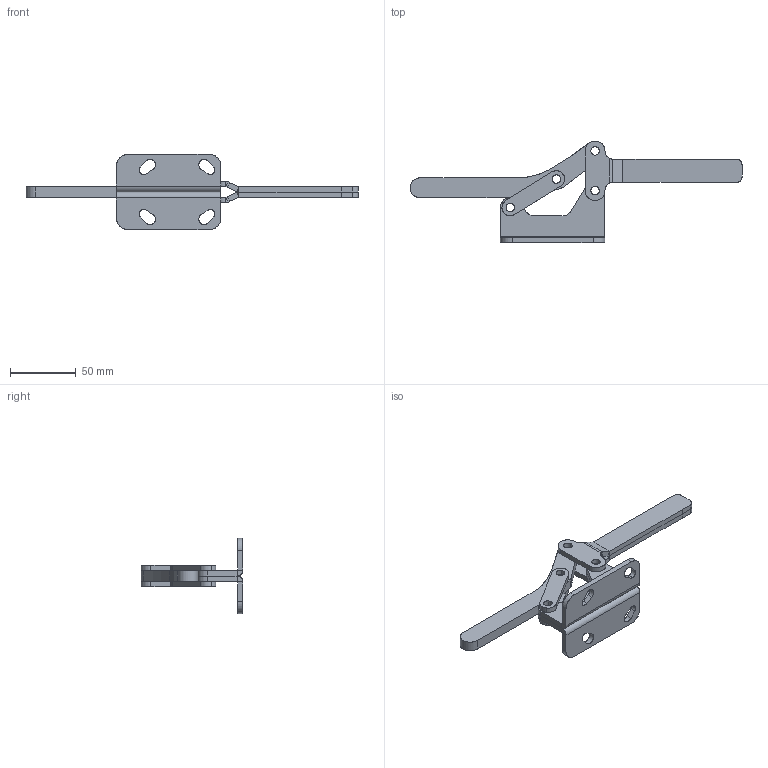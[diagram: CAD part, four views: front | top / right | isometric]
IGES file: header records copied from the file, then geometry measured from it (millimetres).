
Start section: SolidWorks IGES file using analytic representation for surfaces
Global section: file name: D:\GH Files\GH-SW-FILES\GH2\22235\GH-22235.IGS; native system: SolidWorks 2007; preprocessor: SolidWorks 2007; author: Administrator; date: 061019.113552; units: millimetre
Bounding box: 252 x 77.35 x 57.2 mm (x, y, z)
Surface area: 42519.1 mm2 (no closed solid volume)
Topology: 0 solids, 0 shells, 181 faces, 2706 edges, 2706 vertices
Faces by surface type: revolution 93, bspline 88
